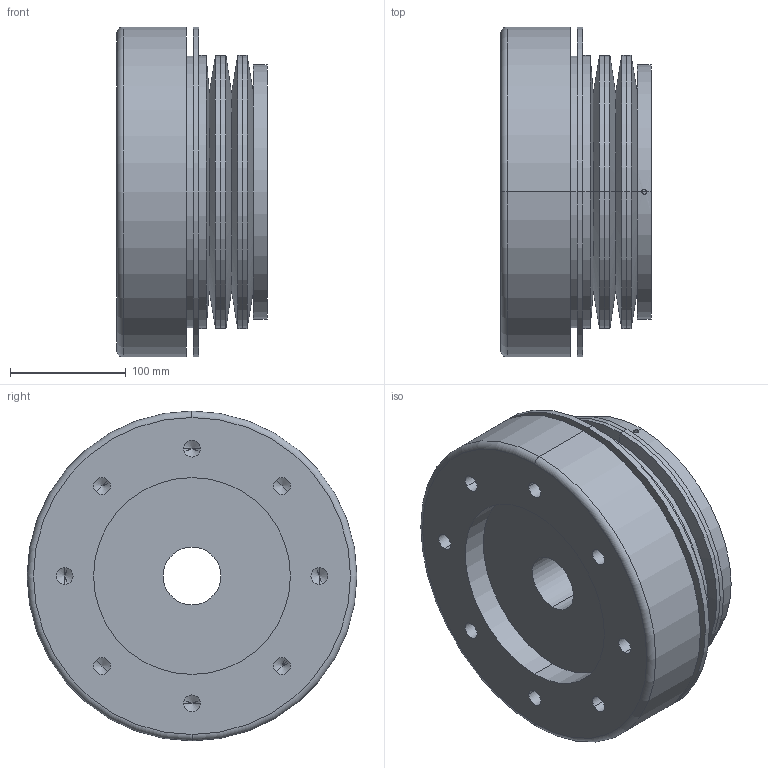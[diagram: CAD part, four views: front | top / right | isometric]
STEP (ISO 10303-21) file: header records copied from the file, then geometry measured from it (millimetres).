
FILE_DESCRIPTION (( 'STEP AP203' ), '1' );
FILE_NAME ('ST18C-500B.STEP', '2009-09-30T17:53:20', ( 'USER' ), ( 'HOME' ), 'SwSTEP 2.0', 'SolidWorks 2007', '' );
FILE_SCHEMA (( 'CONFIG_CONTROL_DESIGN' ));
Length unit declared in the file: millimetre
Products named in the file (1): ST18C-500B
Bounding box: 130 x 285 x 285 mm (x, y, z)
Volume: 5651624.4 mm3; surface area: 587018.5 mm2
Topology: 7 solids, 7 shells, 102 faces, 230 edges, 126 vertices
Faces by surface type: cylinder 56, cone 36, plane 8, torus 2
Entity records: 3019 total; most frequent: CARTESIAN_POINT 679, DIRECTION 516, ORIENTED_EDGE 428, EDGE_CURVE 214, AXIS2_PLACEMENT_3D 211, VERTEX_POINT 126, EDGE_LOOP 120, CIRCLE 108
